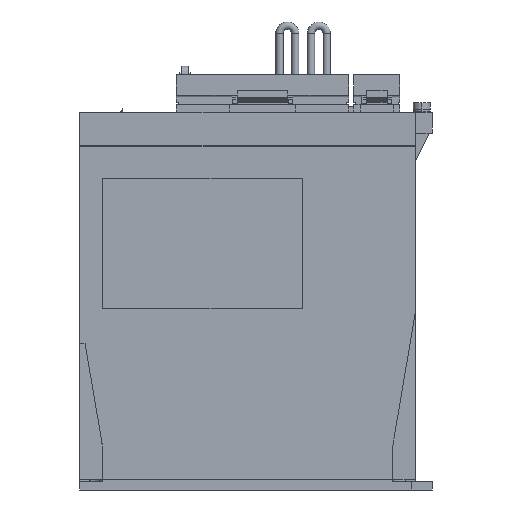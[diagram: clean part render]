
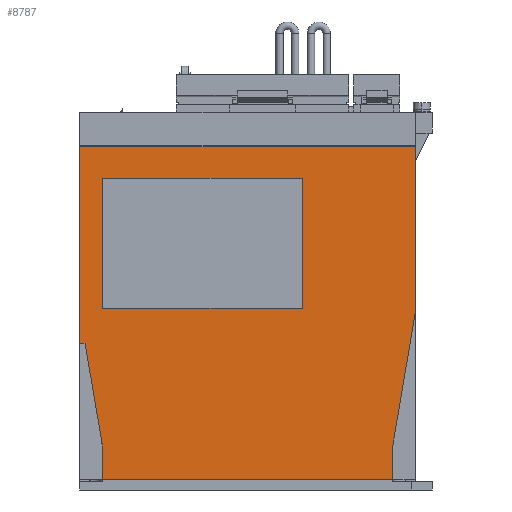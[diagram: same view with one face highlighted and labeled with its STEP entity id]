
A CAD part, left-side view. The second image highlights one B-rep face of the part: STEP entity #8787.
In plain terms, the highlighted planar face has unit normal (-1, 0, 0).
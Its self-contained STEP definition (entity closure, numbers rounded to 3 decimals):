
#7093 = EDGE_CURVE ( 'NONE', #7120, #7119, #32132, .T. ) ;
#7119 = VERTEX_POINT ( 'NONE', #32211 ) ;
#7120 = VERTEX_POINT ( 'NONE', #32210 ) ;
#8759 = EDGE_CURVE ( 'NONE', #8760, #8761, #34990, .T. ) ;
#8760 = VERTEX_POINT ( 'NONE', #34986 ) ;
#8761 = VERTEX_POINT ( 'NONE', #34985 ) ;
#8762 = ORIENTED_EDGE ( 'NONE', *, *, #8763, .F. ) ;
#8763 = EDGE_CURVE ( 'NONE', #8764, #8760, #34984, .T. ) ;
#8764 = VERTEX_POINT ( 'NONE', #35044 ) ;
#8765 = ORIENTED_EDGE ( 'NONE', *, *, #8766, .F. ) ;
#8766 = EDGE_CURVE ( 'NONE', #8767, #8764, #35043, .T. ) ;
#8767 = VERTEX_POINT ( 'NONE', #35039 ) ;
#8768 = ORIENTED_EDGE ( 'NONE', *, *, #8769, .F. ) ;
#8769 = EDGE_CURVE ( 'NONE', #8761, #8767, #35038, .T. ) ;
#8770 = EDGE_LOOP ( 'NONE', ( #8771, #8772, #8833, #8836, #8839, #8842, #8845, #8822, #8823 ) ) ;
#8771 = ORIENTED_EDGE ( 'NONE', *, *, #7093, .T. ) ;
#8772 = ORIENTED_EDGE ( 'NONE', *, *, #8773, .T. ) ;
#8773 = EDGE_CURVE ( 'NONE', #7119, #8774, #35034, .T. ) ;
#8774 = VERTEX_POINT ( 'NONE', #35030 ) ;
#8787 = ADVANCED_FACE ( 'NONE', ( #35074, #35073 ), #35072, .F. ) ;
#8788 = EDGE_LOOP ( 'NONE', ( #8789, #8762, #8765, #8768 ) ) ;
#8789 = ORIENTED_EDGE ( 'NONE', *, *, #8759, .F. ) ;
#8798 = VERTEX_POINT ( 'NONE', #35053 ) ;
#8800 = EDGE_CURVE ( 'NONE', #8798, #8801, #35052, .T. ) ;
#8801 = VERTEX_POINT ( 'NONE', #35048 ) ;
#8822 = ORIENTED_EDGE ( 'NONE', *, *, #8800, .F. ) ;
#8823 = ORIENTED_EDGE ( 'NONE', *, *, #8824, .F. ) ;
#8824 = EDGE_CURVE ( 'NONE', #7120, #8798, #35140, .T. ) ;
#8833 = ORIENTED_EDGE ( 'NONE', *, *, #8834, .F. ) ;
#8834 = EDGE_CURVE ( 'NONE', #8835, #8774, #35122, .T. ) ;
#8835 = VERTEX_POINT ( 'NONE', #35118 ) ;
#8836 = ORIENTED_EDGE ( 'NONE', *, *, #8837, .T. ) ;
#8837 = EDGE_CURVE ( 'NONE', #8835, #8838, #35117, .T. ) ;
#8838 = VERTEX_POINT ( 'NONE', #35112 ) ;
#8839 = ORIENTED_EDGE ( 'NONE', *, *, #8840, .T. ) ;
#8840 = EDGE_CURVE ( 'NONE', #8838, #8841, #35174, .T. ) ;
#8841 = VERTEX_POINT ( 'NONE', #35170 ) ;
#8842 = ORIENTED_EDGE ( 'NONE', *, *, #8843, .F. ) ;
#8843 = EDGE_CURVE ( 'NONE', #8844, #8841, #35169, .T. ) ;
#8844 = VERTEX_POINT ( 'NONE', #35165 ) ;
#8845 = ORIENTED_EDGE ( 'NONE', *, *, #8846, .T. ) ;
#8846 = EDGE_CURVE ( 'NONE', #8844, #8801, #35164, .T. ) ;
#32129 = DIRECTION ( 'NONE',  ( 0., 0., -1. ) ) ;
#32130 = VECTOR ( 'NONE', #32129, 1000. ) ;
#32131 = CARTESIAN_POINT ( 'NONE',  ( -6., 5., 338.642 ) ) ;
#32132 = LINE ( 'NONE', #32131, #32130 ) ;
#32210 = CARTESIAN_POINT ( 'NONE',  ( -6., 5., 163.8 ) ) ;
#32211 = CARTESIAN_POINT ( 'NONE',  ( -6., 5., 70. ) ) ;
#34983 = CARTESIAN_POINT ( 'NONE',  ( -6., -6., 86.6 ) ) ;
#34984 = LINE ( 'NONE', #34983, #35046 ) ;
#34985 = CARTESIAN_POINT ( 'NONE',  ( -6., -101., 148.6 ) ) ;
#34986 = CARTESIAN_POINT ( 'NONE',  ( -6., -101., 86.6 ) ) ;
#34987 = DIRECTION ( 'NONE',  ( 0., 0., 1. ) ) ;
#34988 = VECTOR ( 'NONE', #34987, 1000. ) ;
#34989 = CARTESIAN_POINT ( 'NONE',  ( -6., -101., 86.6 ) ) ;
#34990 = LINE ( 'NONE', #34989, #34988 ) ;
#35030 = CARTESIAN_POINT ( 'NONE',  ( -6., 2.462, 70. ) ) ;
#35031 = DIRECTION ( 'NONE',  ( 0., -1., 0. ) ) ;
#35032 = VECTOR ( 'NONE', #35031, 1000. ) ;
#35033 = CARTESIAN_POINT ( 'NONE',  ( -6., 5., 70. ) ) ;
#35034 = LINE ( 'NONE', #35033, #35032 ) ;
#35035 = DIRECTION ( 'NONE',  ( 0., 1., 0. ) ) ;
#35036 = VECTOR ( 'NONE', #35035, 1000. ) ;
#35037 = CARTESIAN_POINT ( 'NONE',  ( -6., -6., 148.6 ) ) ;
#35038 = LINE ( 'NONE', #35037, #35036 ) ;
#35039 = CARTESIAN_POINT ( 'NONE',  ( -6., -6., 148.6 ) ) ;
#35040 = DIRECTION ( 'NONE',  ( 0., 0., -1. ) ) ;
#35041 = VECTOR ( 'NONE', #35040, 1000. ) ;
#35042 = CARTESIAN_POINT ( 'NONE',  ( -6., -6., 86.6 ) ) ;
#35043 = LINE ( 'NONE', #35042, #35041 ) ;
#35044 = CARTESIAN_POINT ( 'NONE',  ( -6., -6., 86.6 ) ) ;
#35045 = DIRECTION ( 'NONE',  ( 0., -1., 0. ) ) ;
#35046 = VECTOR ( 'NONE', #35045, 1000. ) ;
#35048 = CARTESIAN_POINT ( 'NONE',  ( -6., -155., 85. ) ) ;
#35049 = DIRECTION ( 'NONE',  ( 0., 0., -1. ) ) ;
#35050 = VECTOR ( 'NONE', #35049, 1000. ) ;
#35051 = CARTESIAN_POINT ( 'NONE',  ( -6., -155., 338.642 ) ) ;
#35052 = LINE ( 'NONE', #35051, #35050 ) ;
#35053 = CARTESIAN_POINT ( 'NONE',  ( -6., -155., 163.8 ) ) ;
#35068 = DIRECTION ( 'NONE',  ( 0., 1., 0. ) ) ;
#35069 = DIRECTION ( 'NONE',  ( 1., 0., 0. ) ) ;
#35070 = CARTESIAN_POINT ( 'NONE',  ( -6., 5., 338.642 ) ) ;
#35071 = AXIS2_PLACEMENT_3D ( 'NONE', #35070, #35069, #35068 ) ;
#35072 = PLANE ( 'NONE',  #35071 ) ;
#35073 = FACE_OUTER_BOUND ( 'NONE', #8770, .T. ) ;
#35074 = FACE_BOUND ( 'NONE', #8788, .T. ) ;
#35112 = CARTESIAN_POINT ( 'NONE',  ( -6., -6., 5.2 ) ) ;
#35114 = DIRECTION ( 'NONE',  ( 0., 0., -1. ) ) ;
#35115 = VECTOR ( 'NONE', #35114, 1000. ) ;
#35116 = CARTESIAN_POINT ( 'NONE',  ( -6., -6., 20. ) ) ;
#35117 = LINE ( 'NONE', #35116, #35115 ) ;
#35118 = CARTESIAN_POINT ( 'NONE',  ( -6., -6., 20. ) ) ;
#35119 = DIRECTION ( 'NONE',  ( 0., 0.167, 0.986 ) ) ;
#35120 = VECTOR ( 'NONE', #35119, 1000. ) ;
#35121 = CARTESIAN_POINT ( 'NONE',  ( -6., -6., 20. ) ) ;
#35122 = LINE ( 'NONE', #35121, #35120 ) ;
#35137 = DIRECTION ( 'NONE',  ( 0., -1., 0. ) ) ;
#35138 = VECTOR ( 'NONE', #35137, 1000. ) ;
#35139 = CARTESIAN_POINT ( 'NONE',  ( -6., 5., 163.8 ) ) ;
#35140 = LINE ( 'NONE', #35139, #35138 ) ;
#35161 = DIRECTION ( 'NONE',  ( 0., -0.167, 0.986 ) ) ;
#35162 = VECTOR ( 'NONE', #35161, 1000. ) ;
#35163 = CARTESIAN_POINT ( 'NONE',  ( -6., -144., 20. ) ) ;
#35164 = LINE ( 'NONE', #35163, #35162 ) ;
#35165 = CARTESIAN_POINT ( 'NONE',  ( -6., -144., 20. ) ) ;
#35166 = DIRECTION ( 'NONE',  ( 0., 0., -1. ) ) ;
#35167 = VECTOR ( 'NONE', #35166, 1000. ) ;
#35168 = CARTESIAN_POINT ( 'NONE',  ( -6., -144., 20. ) ) ;
#35169 = LINE ( 'NONE', #35168, #35167 ) ;
#35170 = CARTESIAN_POINT ( 'NONE',  ( -6., -144., 5.2 ) ) ;
#35171 = DIRECTION ( 'NONE',  ( 0., -1., 0. ) ) ;
#35172 = VECTOR ( 'NONE', #35171, 1000. ) ;
#35173 = CARTESIAN_POINT ( 'NONE',  ( -6., -6., 5.2 ) ) ;
#35174 = LINE ( 'NONE', #35173, #35172 ) ;
